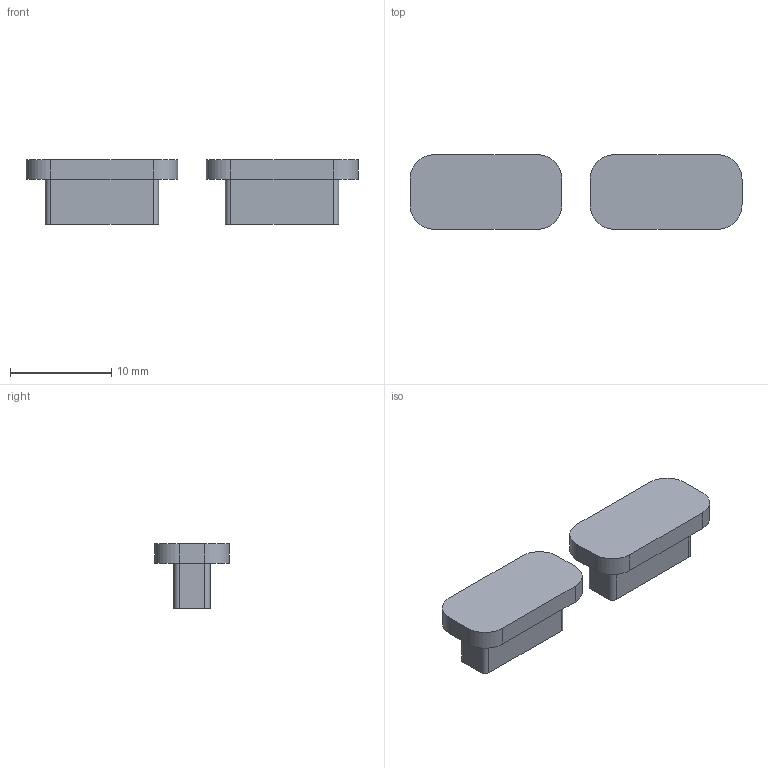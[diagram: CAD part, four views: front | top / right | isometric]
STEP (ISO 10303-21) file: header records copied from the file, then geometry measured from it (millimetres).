
FILE_DESCRIPTION (( 'STEP AP203' ), '1' );
FILE_NAME ('Start_Select Buttons.step', '2015-03-14T23:36:40', ( '' ), ( '' ), 'SwSTEP 2.0', 'SolidWorks 2013', '' );
FILE_SCHEMA (( 'CONFIG_CONTROL_DESIGN' ));
Length unit declared in the file: inch
Products named in the file (1): Start_Select Buttons
Bounding box: 32.77 x 7.37 x 6.35 mm (x, y, z)
Volume: 752.9 mm3; surface area: 988.4 mm2
Topology: 4 solids, 4 shells, 40 faces, 96 edges, 64 vertices
Faces by surface type: plane 24, cylinder 16
Entity records: 1245 total; most frequent: DIRECTION 210, CARTESIAN_POINT 201, ORIENTED_EDGE 192, EDGE_CURVE 96, AXIS2_PLACEMENT_3D 73, VERTEX_POINT 64, VECTOR 64, LINE 64
